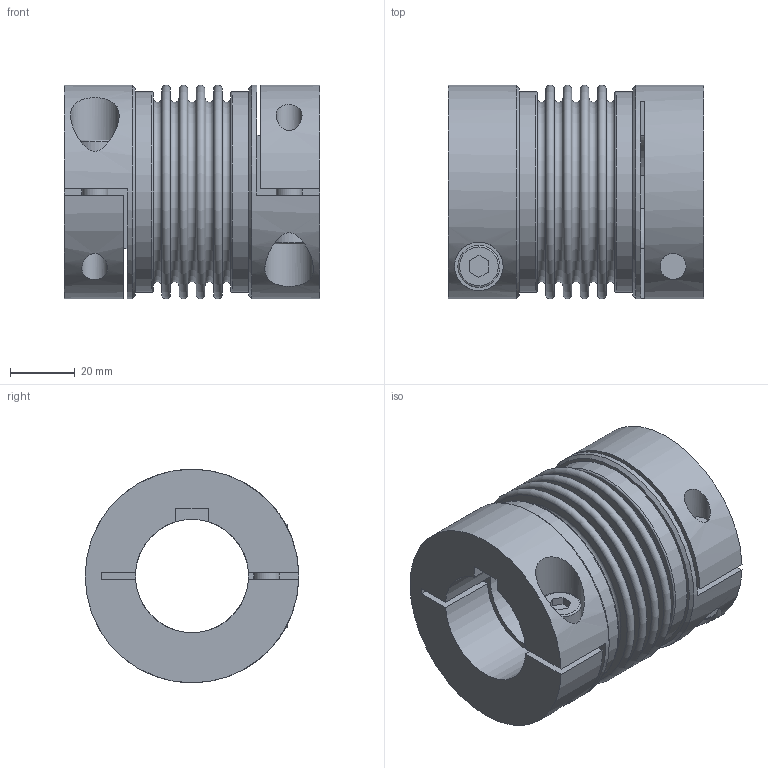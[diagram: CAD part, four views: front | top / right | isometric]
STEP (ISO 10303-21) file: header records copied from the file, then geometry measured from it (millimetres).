
FILE_DESCRIPTION(/* description */ ('STEP AP214'),/* implementation_level */ '2;1');
FILE_NAME(/* name */ 'C:\Diequa Files\DieQua Coupling\BCE\STP\BCE.60.#.#.stp',/* time_stamp */ '2018-11-20T09:51:30-06:00',/* author */ ('DiequaCAD'),/* organization */ (''),/* preprocessor_version */ 'ST-DEVELOPER v17.2',/* originating_system */ 'Autodesk Inventor 2019',/* authorisation */ ' ');
FILE_SCHEMA (('AUTOMOTIVE_DESIGN { 1 0 10303 214 3 1 1 }'));
Length unit declared in the file: millimetre
Products named in the file (1): BKL_60_35_PFN_35_PFN_43
Bounding box: 79 x 66 x 66 mm (x, y, z)
Volume: 134936.4 mm3; surface area: 49870.3 mm2
Topology: 1 solids, 1 shells, 88 faces, 220 edges, 152 vertices
Faces by surface type: plane 56, cylinder 17, torus 13, cone 2
Full cylindrical faces by diameter (mm): 8 x4, 13 x2, 15 x2, 54 x1, 62 x2, 66 x2
Entity records: 2907 total; most frequent: CARTESIAN_POINT 626, DIRECTION 487, ORIENTED_EDGE 440, EDGE_CURVE 220, AXIS2_PLACEMENT_3D 187, VERTEX_POINT 152, EDGE_LOOP 116, LINE 113
